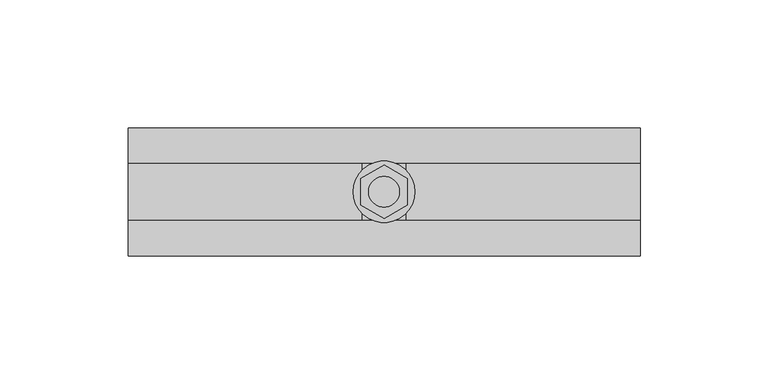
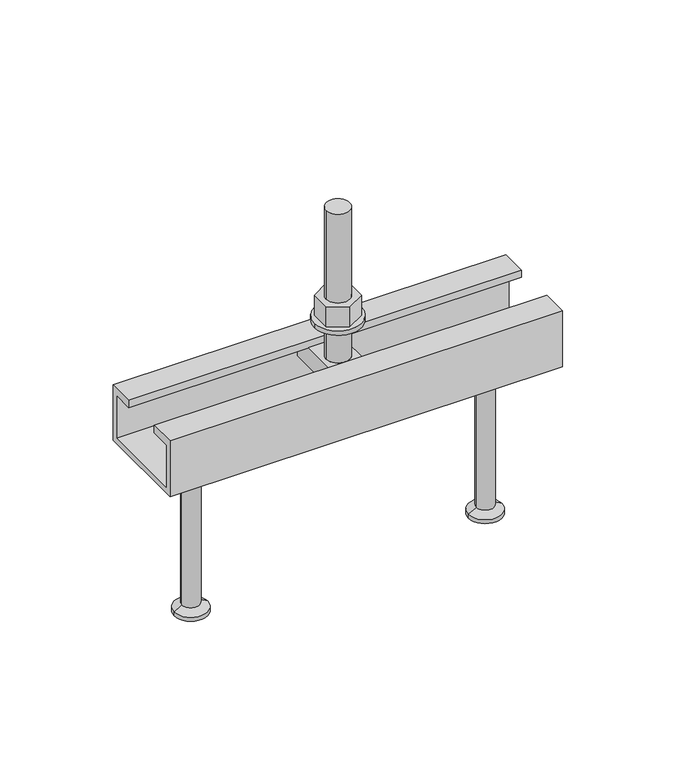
"""IFC4 building model written with IfcOpenShell, lengths in millimetres: fastener geometry, JTA-W JORDAHL® AnchorChannels : JTA-W L=200 mm."""

from ifc_helpers import new_model, si_unit, point, frame, frame_2d, origin, place, context, project, spatial, polyline, circle_curve, trimmed, segment, composite_curve, outline, extrude, source, transform, mapped, element, save
from ifc_brep_helpers import plane_surface, cylinder_surface, revolved_surface, advanced_brep


def fastener_ccac5bf2(model_context):
    return source(origin(), model_context, "Body", "SolidModel", [
        extrude(outline(polyline([(100.0, -10.3923048), (91.0, -5.1961524), (91.0, 5.1961524), (100.0, 10.3923048), (109.0, 5.1961524), (109.0, -5.1961524), (100.0, -10.3923048)]), holes=[composite_curve([segment(trimmed(circle_curve(frame_2d((100.0, 0.0)), 6.0), [point((94.0, 0.0))], [point((106.0, 0.0))], True, "CARTESIAN"), True, "CONTINUOUS"), segment(trimmed(circle_curve(frame_2d((100.0, 0.0)), 6.0), [point((106.0, 0.0))], [point((94.0, 0.0))], True, "CARTESIAN"), True, "CONTINUOUS")], self_intersect=False)]), frame((0.0, 0.0, 17.5), z_axis=(0.0, 0.0, 1.0), x_axis=(1.0, 0.0, 0.0)), (0.0, 0.0, 1.0), 10.8),
        extrude(outline(composite_curve([segment(trimmed(circle_curve(frame_2d((100.0, 0.0)), 12.0), [point((88.0, 0.0))], [point((112.0, 0.0))], False, "CARTESIAN"), True, "CONTINUOUS"), segment(trimmed(circle_curve(frame_2d((100.0, 0.0)), 12.0), [point((112.0, 0.0))], [point((88.0, 0.0))], False, "CARTESIAN"), True, "CONTINUOUS")], self_intersect=False), holes=[composite_curve([segment(trimmed(circle_curve(frame_2d((100.0, 0.0)), 6.5), [point((93.5, 0.0))], [point((106.5, 0.0))], True, "CARTESIAN"), True, "CONTINUOUS"), segment(trimmed(circle_curve(frame_2d((100.0, 0.0)), 6.5), [point((106.5, 0.0))], [point((93.5, 0.0))], True, "CARTESIAN"), True, "CONTINUOUS")], self_intersect=False)]), frame((0.0, 0.0, 15.0), z_axis=(0.0, 0.0, 1.0), x_axis=(1.0, 0.0, 0.0)), (0.0, 0.0, 1.0), 2.5),
        advanced_brep(
        [(108.5, -20.7, -4.0), (108.5, -20.7, -14.0), (108.5, 20.7, -14.0), (108.5, 20.7, -4.0), (91.5, -20.7, -4.0), (91.5, 20.7, -4.0), (91.5, 20.7, -14.0), (91.5, -20.7, -14.0), (106.0, 0.0, -4.0), (94.0, 0.0, -4.0), (94.0, 0.0, 76.0), (106.0, 0.0, 76.0)],
        [
            (0, 1),
            (1, 2),
            (2, 3),
            (3, 0),
            (4, 5),
            (5, 6),
            (6, 7),
            (7, 4),
            (3, 5),
            (4, 0),
            (8, 9, circle_curve(frame((100.0, 0.0, -4.0), z_axis=(0.0, 0.0, -1.0), x_axis=(1.0, 0.0, 0.0)), 6.0)),
            (9, 8, circle_curve(frame((100.0, 0.0, -4.0), z_axis=(0.0, 0.0, -1.0), x_axis=(1.0, 0.0, 0.0)), 6.0)),
            (2, 6),
            (1, 7),
            (10, 11, circle_curve(frame((100.0, 0.0, 76.0), z_axis=(0.0, 0.0, 1.0), x_axis=(1.0, 0.0, 0.0)), 6.0)),
            (11, 10, circle_curve(frame((100.0, 0.0, 76.0), z_axis=(0.0, 0.0, 1.0), x_axis=(1.0, 0.0, 0.0)), 6.0)),
            (11, 8),
            (9, 10),
        ],
        [
            plane_surface(frame((108.5, 20.7, -4.0), z_axis=(1.0, 0.0, 0.0), x_axis=(0.0, 1.0, 0.0))),
            plane_surface(frame((91.5, 20.7, -4.0), z_axis=(-1.0, 0.0, 0.0), x_axis=(0.0, -1.0, 0.0))),
            plane_surface(frame((108.5, -20.7, -4.0), z_axis=(0.0, 0.0, 1.0), x_axis=(-1.0, 0.0, 0.0))),
            plane_surface(frame((108.5, 20.7, -4.0), z_axis=(0.0, 1.0, 0.0), x_axis=(-1.0, 0.0, 0.0))),
            plane_surface(frame((108.5, 20.7, -14.0), z_axis=(0.0, 0.0, -1.0), x_axis=(-1.0, 0.0, 0.0))),
            plane_surface(frame((108.5, -20.7, -14.0), z_axis=(0.0, -1.0, 0.0), x_axis=(-1.0, 0.0, 0.0))),
            plane_surface(frame((106.0, 0.0, 76.0), z_axis=(0.0, 0.0, 1.0), x_axis=(0.0, -1.0, 0.0))),
            cylinder_surface(frame((100.0, 0.0, -4.0), z_axis=(0.0, 0.0, 1.0), x_axis=(1.0, 0.0, 0.0)), 6.0),
        ],
        [
            (0, [[1, 2, 3, 4]]),
            (1, [[5, 6, 7, 8]]),
            (2, [[9, -5, 10, -4], [11, 12]]),
            (3, [[13, -6, -9, -3]]),
            (4, [[14, -7, -13, -2]]),
            (5, [[-10, -8, -14, -1]]),
            (6, [[15, 16]]),
            (7, [[17, -12, 18, -16]]),
            (7, [[-18, -11, -17, -15]]),
        ],
    ),
        advanced_brep(
        [(175.0, 0.0, -30.0), (161.5, 0.0, -30.0), (188.5, 0.0, -30.0), (166.5, 0.0, -115.0), (175.0, 0.0, -115.0), (183.5, 0.0, -115.0), (166.5, 0.0, -113.0), (183.5, 0.0, -113.0), (170.5, 0.0, -110.6905989), (179.5, 0.0, -110.6905989), (170.5, 0.0, -32.5), (179.5, 0.0, -32.5)],
        [
            (0, 1),
            (1, 2, circle_curve(frame((175.0, 0.0, -30.0), z_axis=(0.0, 0.0, 1.0), x_axis=(1.0, 0.0, 0.0)), 13.5)),
            (2, 0),
            (2, 1, circle_curve(frame((175.0, 0.0, -30.0), z_axis=(0.0, 0.0, 1.0), x_axis=(1.0, 0.0, 0.0)), 13.5)),
            (3, 4),
            (4, 5),
            (5, 3, circle_curve(frame((175.0, 0.0, -115.0), z_axis=(0.0, 0.0, -1.0), x_axis=(1.0, 0.0, 0.0)), 8.5)),
            (3, 5, circle_curve(frame((175.0, 0.0, -115.0), z_axis=(0.0, 0.0, -1.0), x_axis=(1.0, 0.0, 0.0)), 8.5)),
            (6, 3),
            (5, 7),
            (7, 6, circle_curve(frame((175.0, 0.0, -113.0), z_axis=(0.0, 0.0, -1.0), x_axis=(1.0, 0.0, 0.0)), 8.5)),
            (6, 7, circle_curve(frame((175.0, 0.0, -113.0), z_axis=(0.0, 0.0, -1.0), x_axis=(1.0, 0.0, 0.0)), 8.5)),
            (8, 6),
            (7, 9),
            (9, 8, circle_curve(frame((175.0, 0.0, -110.6905989), z_axis=(0.0, 0.0, -1.0), x_axis=(1.0, 0.0, 0.0)), 4.5)),
            (8, 9, circle_curve(frame((175.0, 0.0, -110.6905989), z_axis=(0.0, 0.0, -1.0), x_axis=(1.0, 0.0, 0.0)), 4.5)),
            (10, 8),
            (9, 11),
            (11, 10, circle_curve(frame((175.0, 0.0, -32.5), z_axis=(0.0, 0.0, -1.0), x_axis=(1.0, 0.0, 0.0)), 4.5)),
            (10, 11, circle_curve(frame((175.0, 0.0, -32.5), z_axis=(0.0, 0.0, -1.0), x_axis=(1.0, 0.0, 0.0)), 4.5)),
            (1, 10),
            (11, 2),
        ],
        [
            plane_surface(frame((175.0, 0.0, -30.0), z_axis=(0.0, 0.0, 1.0), x_axis=(1.0, 0.0, 0.0))),
            plane_surface(frame((175.0, 0.0, -115.0), z_axis=(0.0, 0.0, -1.0), x_axis=(1.0, 0.0, 0.0))),
            cylinder_surface(frame((175.0, 0.0, 2299.3150031), z_axis=(0.0, 0.0, 1.0), x_axis=(1.0, 0.0, 0.0)), 8.5),
            revolved_surface(polyline([(183.5, 0.0, -113.0), (179.5, 0.0, -110.6905989)]), (175.0, 0.0, 2299.3150031), (0.0, 0.0, 1.0)),
            cylinder_surface(frame((175.0, 0.0, 2299.3150031), z_axis=(0.0, 0.0, 1.0), x_axis=(1.0, 0.0, 0.0)), 4.5),
            revolved_surface(polyline([(179.5, 0.0, -32.5), (188.5, 0.0, -30.0)]), (175.0, 0.0, 2299.3150031), (0.0, 0.0, 1.0)),
        ],
        [
            (0, [[1, 2, 3]]),
            (0, [[-3, 4, -1]]),
            (1, [[5, 6, 7]]),
            (1, [[-6, -5, 8]]),
            (2, [[9, -7, 10, 11]]),
            (2, [[-10, -8, -9, 12]]),
            (3, [[13, -11, 14, 15]]),
            (3, [[-14, -12, -13, 16]]),
            (4, [[17, -15, 18, 19]]),
            (4, [[-18, -16, -17, 20]]),
            (5, [[21, -19, 22, -2]]),
            (5, [[-22, -20, -21, -4]]),
        ],
    ),
        advanced_brep(
        [(25.0, 0.0, -30.0), (11.5, 0.0, -30.0), (38.5, 0.0, -30.0), (16.5, 0.0, -115.0), (25.0, 0.0, -115.0), (33.5, 0.0, -115.0), (16.5, 0.0, -113.0), (33.5, 0.0, -113.0), (20.5, 0.0, -110.6905989), (29.5, 0.0, -110.6905989), (20.5, 0.0, -32.5), (29.5, 0.0, -32.5)],
        [
            (0, 1),
            (1, 2, circle_curve(frame((25.0, 0.0, -30.0), z_axis=(0.0, 0.0, 1.0), x_axis=(1.0, 0.0, 0.0)), 13.5)),
            (2, 0),
            (2, 1, circle_curve(frame((25.0, 0.0, -30.0), z_axis=(0.0, 0.0, 1.0), x_axis=(1.0, 0.0, 0.0)), 13.5)),
            (3, 4),
            (4, 5),
            (5, 3, circle_curve(frame((25.0, 0.0, -115.0), z_axis=(0.0, 0.0, -1.0), x_axis=(1.0, 0.0, 0.0)), 8.5)),
            (3, 5, circle_curve(frame((25.0, 0.0, -115.0), z_axis=(0.0, 0.0, -1.0), x_axis=(1.0, 0.0, 0.0)), 8.5)),
            (6, 3),
            (5, 7),
            (7, 6, circle_curve(frame((25.0, 0.0, -113.0), z_axis=(0.0, 0.0, -1.0), x_axis=(1.0, 0.0, 0.0)), 8.5)),
            (6, 7, circle_curve(frame((25.0, 0.0, -113.0), z_axis=(0.0, 0.0, -1.0), x_axis=(1.0, 0.0, 0.0)), 8.5)),
            (8, 6),
            (7, 9),
            (9, 8, circle_curve(frame((25.0, 0.0, -110.6905989), z_axis=(0.0, 0.0, -1.0), x_axis=(1.0, 0.0, 0.0)), 4.5)),
            (8, 9, circle_curve(frame((25.0, 0.0, -110.6905989), z_axis=(0.0, 0.0, -1.0), x_axis=(1.0, 0.0, 0.0)), 4.5)),
            (10, 8),
            (9, 11),
            (11, 10, circle_curve(frame((25.0, 0.0, -32.5), z_axis=(0.0, 0.0, -1.0), x_axis=(1.0, 0.0, 0.0)), 4.5)),
            (10, 11, circle_curve(frame((25.0, 0.0, -32.5), z_axis=(0.0, 0.0, -1.0), x_axis=(1.0, 0.0, 0.0)), 4.5)),
            (1, 10),
            (11, 2),
        ],
        [
            plane_surface(frame((25.0, 0.0, -30.0), z_axis=(0.0, 0.0, 1.0), x_axis=(1.0, 0.0, 0.0))),
            plane_surface(frame((25.0, 0.0, -115.0), z_axis=(0.0, 0.0, -1.0), x_axis=(1.0, 0.0, 0.0))),
            cylinder_surface(frame((25.0, 0.0, 2299.3150031), z_axis=(0.0, 0.0, 1.0), x_axis=(1.0, 0.0, 0.0)), 8.5),
            revolved_surface(polyline([(33.5, 0.0, -113.0), (29.5, 0.0, -110.6905989)]), (25.0, 0.0, 2299.3150031), (0.0, 0.0, 1.0)),
            cylinder_surface(frame((25.0, 0.0, 2299.3150031), z_axis=(0.0, 0.0, 1.0), x_axis=(1.0, 0.0, 0.0)), 4.5),
            revolved_surface(polyline([(29.5, 0.0, -32.5), (38.5, 0.0, -30.0)]), (25.0, 0.0, 2299.3150031), (0.0, 0.0, 1.0)),
        ],
        [
            (0, [[1, 2, 3]]),
            (0, [[-3, 4, -1]]),
            (1, [[5, 6, 7]]),
            (1, [[-6, -5, 8]]),
            (2, [[9, -7, 10, 11]]),
            (2, [[-10, -8, -9, 12]]),
            (3, [[13, -11, 14, 15]]),
            (3, [[-14, -12, -13, 16]]),
            (4, [[17, -15, 18, 19]]),
            (4, [[-18, -16, -17, 20]]),
            (5, [[21, -19, 22, -2]]),
            (5, [[-22, -20, -21, -4]]),
        ],
    ),
        extrude(outline(polyline([(-25.0, 0.0), (-11.25, 0.0), (-11.25, -4.0), (-22.2, -4.0), (-22.2, -27.2), (22.2, -27.2), (22.2, -4.0), (11.25, -4.0), (11.25, 0.0), (25.0, 0.0), (25.0, -30.0), (-25.0, -30.0), (-25.0, 0.0)])), frame((0.0, 0.0, 0.0), z_axis=(1.0, 0.0, 0.0), x_axis=(0.0, 1.0, 0.0)), (0.0, 0.0, 1.0), 200.0),
    ])


if __name__ == "__main__":
    model = new_model("IFC4")
    model_context = context("Model", 3, world=origin())
    ifc_project = project(units=[si_unit("LENGTHUNIT", "METRE", prefix="MILLI")], contexts=[model_context])
    site = spatial("IfcSite", under=ifc_project)
    building = spatial("IfcBuilding", under=site)
    placement = place(None, origin())
    fastener_shape = fastener_ccac5bf2(model_context)
    element("IfcFastener", 1, ObjectType="JTA-W JORDAHL® AnchorChannels : JTA-W L=200 mm", at=placement, inside=building, context=model_context, shape_type="MappedRepresentation", body=[
        mapped(fastener_shape, transform((0.0, 0.0, 0.0), x_axis=(1.0, 0.0, 0.0), y_axis=(0.0, 1.0, 0.0), z_axis=(0.0, 0.0, 1.0))),
    ])
    save(model, "model.ifc")
